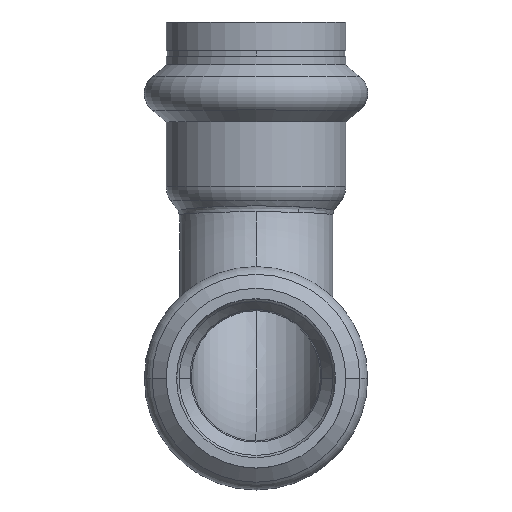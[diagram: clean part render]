
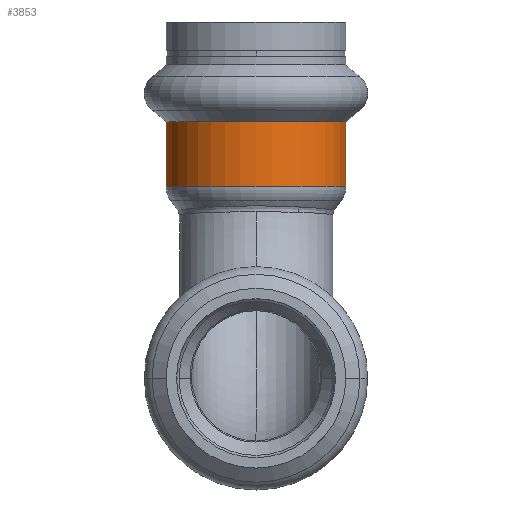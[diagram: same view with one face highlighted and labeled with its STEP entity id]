
A CAD part, top view. The second image highlights one B-rep face of the part: STEP entity #3853.
In plain terms, the highlighted cylindrical face has radius 12.6 mm (diameter 25.2 mm), a partial arc.
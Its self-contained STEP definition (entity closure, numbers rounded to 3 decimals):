
#222 = CIRCLE ( 'NONE', #2496, 12.6 ) ;
#423 = ORIENTED_EDGE ( 'NONE', *, *, #2104, .F. ) ;
#441 = ORIENTED_EDGE ( 'NONE', *, *, #1144, .T. ) ;
#502 = ORIENTED_EDGE ( 'NONE', *, *, #1840, .F. ) ;
#512 = ORIENTED_EDGE ( 'NONE', *, *, #1677, .F. ) ;
#564 = VERTEX_POINT ( 'NONE', #706 ) ;
#653 = VERTEX_POINT ( 'NONE', #1764 ) ;
#706 = CARTESIAN_POINT ( 'NONE',  ( 12.6, 36.008, 0. ) ) ;
#766 = CARTESIAN_POINT ( 'NONE',  ( -12.6, 36.008, 0. ) ) ;
#933 = DIRECTION ( 'NONE',  ( 0., 0., 1. ) ) ;
#1144 = EDGE_CURVE ( 'NONE', #653, #564, #2129, .T. ) ;
#1208 = CIRCLE ( 'NONE', #3226, 12.6 ) ;
#1448 = DIRECTION ( 'NONE',  ( 1., 0., 0. ) ) ;
#1473 = VECTOR ( 'NONE', #2821, 1000. ) ;
#1528 = LINE ( 'NONE', #3875, #1473 ) ;
#1677 = EDGE_CURVE ( 'NONE', #3100, #2654, #1528, .T. ) ;
#1701 = DIRECTION ( 'NONE',  ( 0., 1., 0. ) ) ;
#1732 = DIRECTION ( 'NONE',  ( 0., 1., 0. ) ) ;
#1743 = CARTESIAN_POINT ( 'NONE',  ( 0., 62.626, 0. ) ) ;
#1764 = CARTESIAN_POINT ( 'NONE',  ( 12.6, 27., 0. ) ) ;
#1822 = CARTESIAN_POINT ( 'NONE',  ( 0., 36.008, 0. ) ) ;
#1840 = EDGE_CURVE ( 'NONE', #653, #3100, #1208, .T. ) ;
#1842 = CARTESIAN_POINT ( 'NONE',  ( 12.6, 62.626, 0. ) ) ;
#1885 = DIRECTION ( 'NONE',  ( 0., 1., 0. ) ) ;
#2086 = VECTOR ( 'NONE', #1885, 1000. ) ;
#2104 = EDGE_CURVE ( 'NONE', #2654, #564, #222, .T. ) ;
#2129 = LINE ( 'NONE', #1842, #2086 ) ;
#2496 = AXIS2_PLACEMENT_3D ( 'NONE', #1822, #1701, #933 ) ;
#2532 = CYLINDRICAL_SURFACE ( 'NONE', #3366, 12.6 ) ;
#2560 = DIRECTION ( 'NONE',  ( 1., 0., 0. ) ) ;
#2654 = VERTEX_POINT ( 'NONE', #766 ) ;
#2821 = DIRECTION ( 'NONE',  ( 0., 1., 0. ) ) ;
#2881 = EDGE_LOOP ( 'NONE', ( #512, #502, #441, #423 ) ) ;
#3100 = VERTEX_POINT ( 'NONE', #3184 ) ;
#3184 = CARTESIAN_POINT ( 'NONE',  ( -12.6, 27., 0. ) ) ;
#3226 = AXIS2_PLACEMENT_3D ( 'NONE', #4139, #4014, #2560 ) ;
#3366 = AXIS2_PLACEMENT_3D ( 'NONE', #1743, #1732, #1448 ) ;
#3853 = ADVANCED_FACE ( 'NONE', ( #4079 ), #2532, .T. ) ;
#3875 = CARTESIAN_POINT ( 'NONE',  ( -12.6, 62.626, 0. ) ) ;
#4014 = DIRECTION ( 'NONE',  ( 0., -1., 0. ) ) ;
#4079 = FACE_OUTER_BOUND ( 'NONE', #2881, .T. ) ;
#4139 = CARTESIAN_POINT ( 'NONE',  ( 0., 27., 0. ) ) ;
